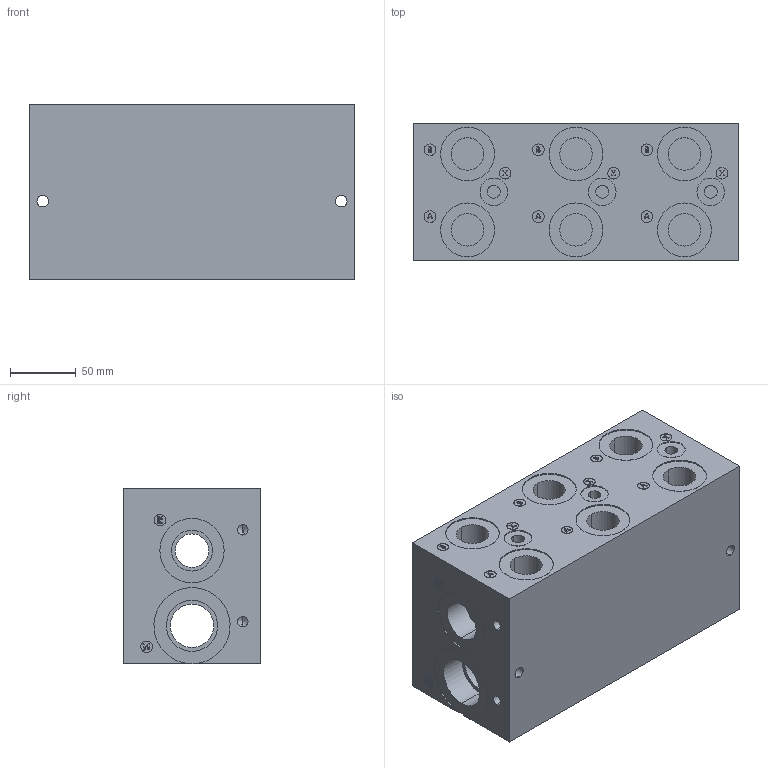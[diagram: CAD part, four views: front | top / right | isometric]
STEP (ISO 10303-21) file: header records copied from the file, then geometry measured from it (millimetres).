
FILE_DESCRIPTION (( 'STEP AP203' ), '1' );
FILE_NAME ('BM-AHP05HS3-03-1_Z.STEP', '2015-01-06T16:19:39', ( '' ), ( '' ), 'SwSTEP 2.0', 'SolidWorks 2014', '' );
FILE_SCHEMA (( 'CONFIG_CONTROL_DESIGN' ));
Length unit declared in the file: inch
Products named in the file (1): BM-AHP05HS3-03-1_Z
Bounding box: 247.65 x 104.65 x 133.35 mm (x, y, z)
Volume: 2986748.7 mm3; surface area: 220652.1 mm2
Topology: 1 solids, 1 shells, 616 faces, 1505 edges, 949 vertices
Faces by surface type: plane 298, cylinder 201, cone 70, bspline 47
Entity records: 20560 total; most frequent: CARTESIAN_POINT 6258, ORIENTED_EDGE 2882, DIRECTION 2871, EDGE_CURVE 1441, AXIS2_PLACEMENT_3D 972, VERTEX_POINT 949, LINE 927, VECTOR 927
